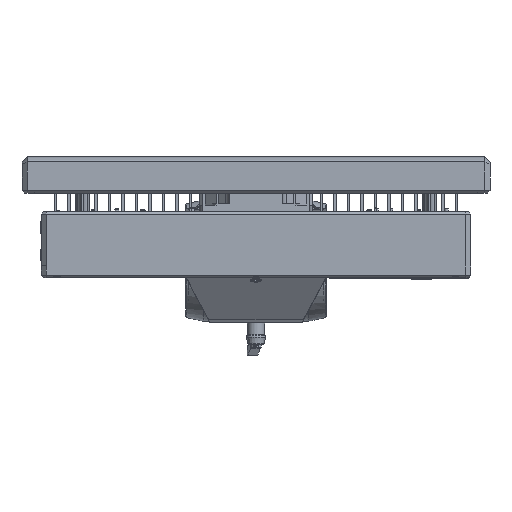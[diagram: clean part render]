
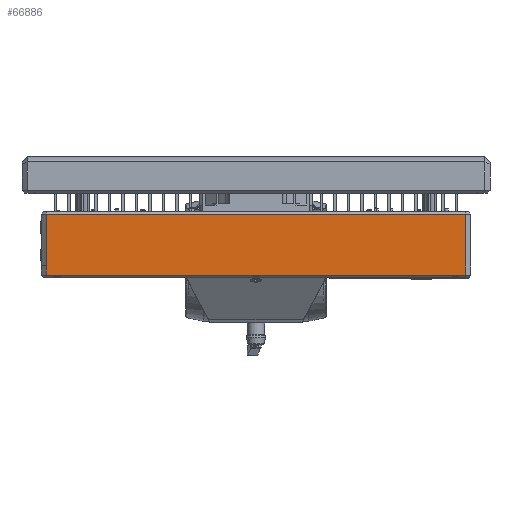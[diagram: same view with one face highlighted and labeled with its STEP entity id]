
A CAD part, front view. The second image highlights one B-rep face of the part: STEP entity #66886.
In plain terms, the highlighted planar face has unit normal (0, -1, 0).
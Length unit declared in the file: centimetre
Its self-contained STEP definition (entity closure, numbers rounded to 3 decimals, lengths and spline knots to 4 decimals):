
#52884=CARTESIAN_POINT('',(-1.16,0.88,-5.5));
#52885=VERTEX_POINT('',#52884);
#52936=CARTESIAN_POINT('',(-1.18,0.88,-5.5));
#52937=VERTEX_POINT('',#52936);
#52944=CARTESIAN_POINT('',(-1.16,0.88,-5.5));
#52945=DIRECTION('',(-1.0,0.,0.0));
#52946=VECTOR('',#52945,0.02);
#52947=LINE('',#52944,#52946);
#52948=EDGE_CURVE('',#52885,#52937,#52947,.T.);
#53621=CARTESIAN_POINT('',(-1.18,0.88,-6.2));
#53622=VERTEX_POINT('',#53621);
#53644=CARTESIAN_POINT('',(30.56,0.88,-6.2));
#53645=VERTEX_POINT('',#53644);
#53646=CARTESIAN_POINT('',(30.56,0.88,-6.2));
#53647=DIRECTION('',(-1.0,0.,0.0));
#53648=VECTOR('',#53647,31.74);
#53649=LINE('',#53646,#53648);
#53650=EDGE_CURVE('',#53645,#53622,#53649,.T.);
#53686=CARTESIAN_POINT('',(-1.18,0.88,-6.2));
#53687=DIRECTION('',(0.0,0.0,1.0));
#53688=VECTOR('',#53687,0.7);
#53689=LINE('',#53686,#53688);
#53690=EDGE_CURVE('',#53622,#52937,#53689,.T.);
#64250=CARTESIAN_POINT('',(30.56,0.88,-1.6));
#64251=VERTEX_POINT('',#64250);
#64258=CARTESIAN_POINT('',(30.56,0.88,-1.6));
#64259=DIRECTION('',(0.0,0.0,-1.0));
#64260=VECTOR('',#64259,4.6);
#64261=LINE('',#64258,#64260);
#64262=EDGE_CURVE('',#64251,#53645,#64261,.T.);
#66845=CARTESIAN_POINT('',(30.94,0.88,-1.9));
#66846=DIRECTION('',(0.,-1.0,0.0));
#66847=DIRECTION('',(0.0,0.0,-1.0));
#66848=AXIS2_PLACEMENT_3D('',#66845,#66846,#66847);
#66849=PLANE('',#66848);
#66850=CARTESIAN_POINT('',(-1.16,0.88,-5.47));
#66851=VERTEX_POINT('',#66850);
#66852=CARTESIAN_POINT('',(-1.16,0.88,-5.47));
#66853=DIRECTION('',(0.0,0.0,-1.0));
#66854=VECTOR('',#66853,0.03);
#66855=LINE('',#66852,#66854);
#66856=EDGE_CURVE('',#66851,#52885,#66855,.T.);
#66857=ORIENTED_EDGE('',*,*,#66856,.T.);
#66858=ORIENTED_EDGE('',*,*,#52948,.T.);
#66859=ORIENTED_EDGE('',*,*,#53690,.F.);
#66860=ORIENTED_EDGE('',*,*,#53650,.F.);
#66861=ORIENTED_EDGE('',*,*,#64262,.F.);
#66862=CARTESIAN_POINT('',(-1.18,0.88,-1.6));
#66863=VERTEX_POINT('',#66862);
#66864=CARTESIAN_POINT('',(-1.18,0.88,-1.6));
#66865=DIRECTION('',(1.0,0.,0.0));
#66866=VECTOR('',#66865,31.74);
#66867=LINE('',#66864,#66866);
#66868=EDGE_CURVE('',#66863,#64251,#66867,.T.);
#66869=ORIENTED_EDGE('',*,*,#66868,.F.);
#66870=CARTESIAN_POINT('',(-1.18,0.88,-5.47));
#66871=VERTEX_POINT('',#66870);
#66872=CARTESIAN_POINT('',(-1.18,0.88,-5.47));
#66873=DIRECTION('',(0.0,0.0,1.0));
#66874=VECTOR('',#66873,3.87);
#66875=LINE('',#66872,#66874);
#66876=EDGE_CURVE('',#66871,#66863,#66875,.T.);
#66877=ORIENTED_EDGE('',*,*,#66876,.F.);
#66878=CARTESIAN_POINT('',(-1.16,0.88,-5.47));
#66879=DIRECTION('',(-1.0,0.,0.0));
#66880=VECTOR('',#66879,0.02);
#66881=LINE('',#66878,#66880);
#66882=EDGE_CURVE('',#66851,#66871,#66881,.T.);
#66883=ORIENTED_EDGE('',*,*,#66882,.F.);
#66884=EDGE_LOOP('',(#66857,#66858,#66859,#66860,#66861,#66869,#66877,#66883));
#66885=FACE_OUTER_BOUND('',#66884,.T.);
#66886=ADVANCED_FACE('',(#66885),#66849,.T.);
